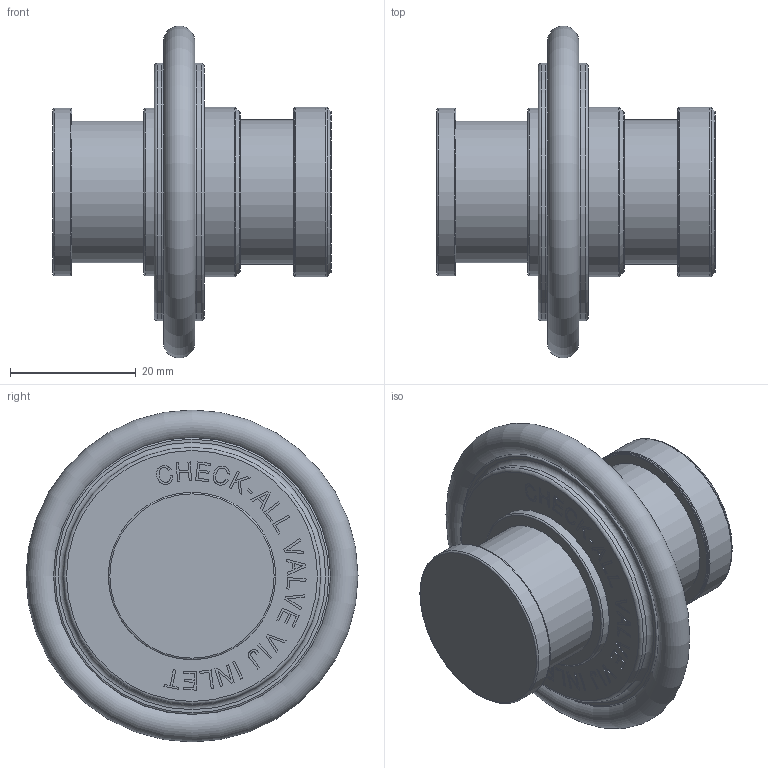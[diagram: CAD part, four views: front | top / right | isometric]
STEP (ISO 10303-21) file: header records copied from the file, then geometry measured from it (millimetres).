
FILE_DESCRIPTION(/* description */ ('Unknown'),/* implementation_level */ '2;1');
FILE_NAME(/* name */ 'VIJ',/* time_stamp */ '2018-08-09T11:25:09-05:00',/* author */ ('Unknown'),/* organization */ ('Unknown'),/* preprocessor_version */ 'ST-DEVELOPER v16.7',/* originating_system */ 'DEX',/* authorisation */ $);
FILE_SCHEMA (('AUTOMOTIVE_DESIGN {1 0 10303 214 3 1 1}'));
Length unit declared in the file: millimetre
Products named in the file (1): VIJ
Bounding box: 44.4 x 52.88 x 52.88 mm (x, y, z)
Volume: 31587.8 mm3; surface area: 8783.5 mm2
Topology: 1 solids, 1 shells, 231 faces, 576 edges, 379 vertices
Faces by surface type: plane 198, torus 16, cylinder 8, bspline 6, cone 3
Full cylindrical faces by diameter (mm): 22.606 x1, 23.114 x1, 26.67 x2, 27 x2, 40.996 x2
Entity records: 8535 total; most frequent: CARTESIAN_POINT 1504, ORIENTED_EDGE 1092, DIRECTION 1022, EDGE_CURVE 546, LINE 498, VECTOR 498, VERTEX_POINT 376, EDGE_LOOP 290
